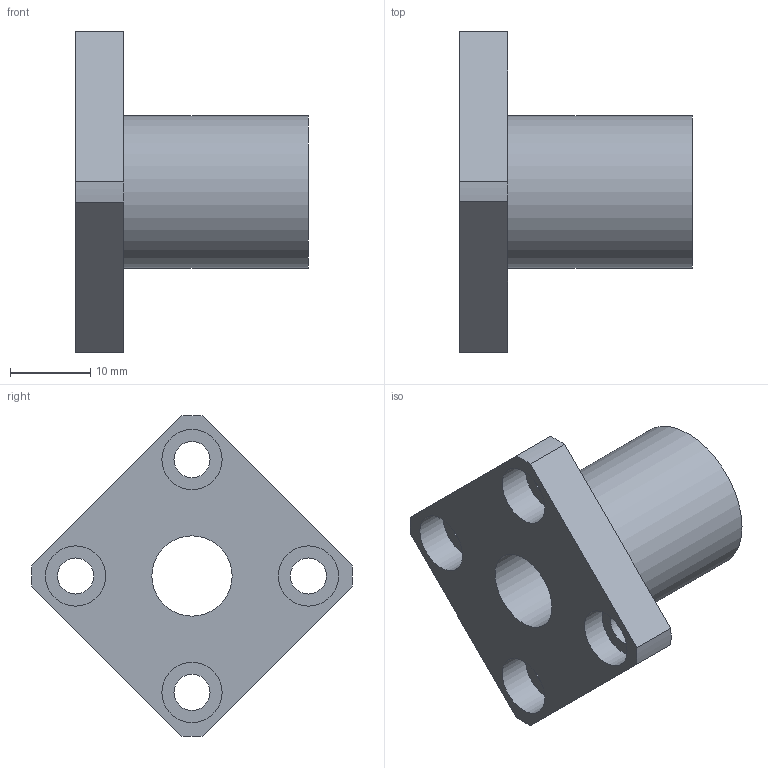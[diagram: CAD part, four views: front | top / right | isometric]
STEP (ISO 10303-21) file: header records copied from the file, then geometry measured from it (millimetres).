
FILE_DESCRIPTION( ( 'STEP AP203' ), '1' );
FILE_NAME( 'p:/temp/worker_6/temp/exporttempdir_3456_2051_iclgV/format_0/LMEK10UU.stp', '2020-05-07T05:45:30', ( 'License CC BY-ND 4.0' ), ( 'CADENAS' ), ' ', 'PARTsolutions', ' ' );
FILE_SCHEMA( ( 'CONFIG_CONTROL_DESIGN' ) );
Length unit declared in the file: millimetre
Products named in the file (1): _LMEK10UU
Bounding box: 29 x 39.99 x 39.99 mm (x, y, z)
Volume: 8790.3 mm3; surface area: 4967.2 mm2
Topology: 1 solids, 1 shells, 25 faces, 55 edges, 37 vertices
Faces by surface type: cylinder 14, plane 11
Full cylindrical faces by diameter (mm): 4.5 x4, 7.5 x4, 10 x1, 19 x1
Entity records: 710 total; most frequent: DIRECTION 124, CARTESIAN_POINT 106, ORIENTED_EDGE 88, AXIS2_PLACEMENT_3D 54, EDGE_LOOP 50, EDGE_CURVE 44, VERTEX_POINT 36, FACE_OUTER_BOUND 35
